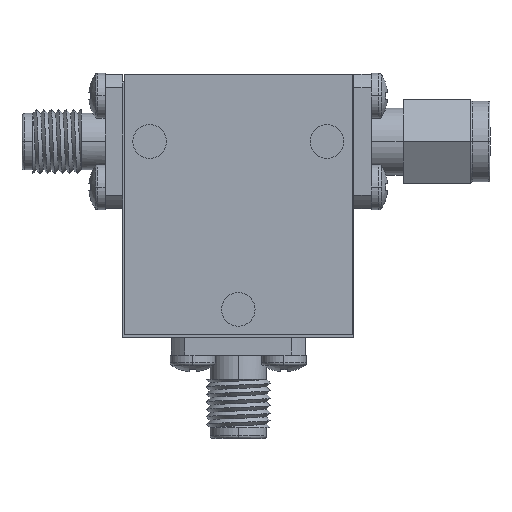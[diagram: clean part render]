
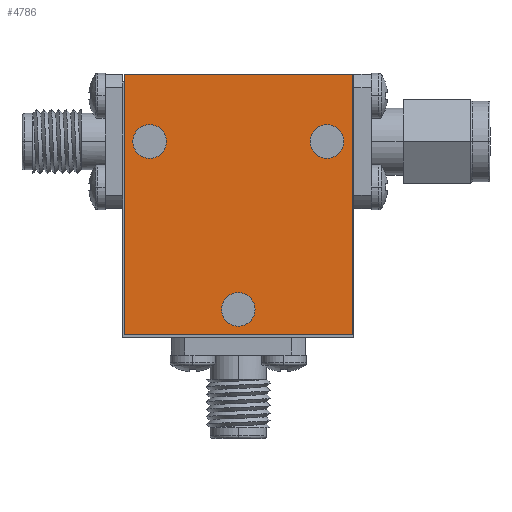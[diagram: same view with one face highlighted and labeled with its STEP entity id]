
A CAD part, top view. The second image highlights one B-rep face of the part: STEP entity #4786.
In plain terms, the highlighted planar face has unit normal (0, 0, 1).
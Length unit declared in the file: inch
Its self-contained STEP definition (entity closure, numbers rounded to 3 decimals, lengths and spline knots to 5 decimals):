
#86 = AXIS2_PLACEMENT_3D ( 'NONE', #2663, #194, #2822 ) ;
#126 = CIRCLE ( 'NONE', #86, 0.0625 ) ;
#194 = DIRECTION ( 'NONE',  ( 0., 0., 1. ) ) ;
#268 = ORIENTED_EDGE ( 'NONE', *, *, #1332, .T. ) ;
#324 = FACE_BOUND ( 'NONE', #4761, .T. ) ;
#326 = DIRECTION ( 'NONE',  ( 0., -1., 0. ) ) ;
#512 = CARTESIAN_POINT ( 'NONE',  ( 0.43325, 0.4975, 0.52168 ) ) ;
#781 = AXIS2_PLACEMENT_3D ( 'NONE', #1720, #5119, #326 ) ;
#788 = FACE_OUTER_BOUND ( 'NONE', #3611, .T. ) ;
#805 = DIRECTION ( 'NONE',  ( -1., 0., 0. ) ) ;
#825 = CARTESIAN_POINT ( 'NONE',  ( -0.32175, 0.185, 0.52168 ) ) ;
#847 = VERTEX_POINT ( 'NONE', #2517 ) ;
#881 = PLANE ( 'NONE',  #4744 ) ;
#896 = DIRECTION ( 'NONE',  ( 0., 0., -1. ) ) ;
#898 = EDGE_CURVE ( 'NONE', #5420, #4366, #126, .T. ) ;
#903 = CARTESIAN_POINT ( 'NONE',  ( -0.41675, 0.4975, 0.52168 ) ) ;
#942 = AXIS2_PLACEMENT_3D ( 'NONE', #4652, #2980, #2094 ) ;
#969 = EDGE_LOOP ( 'NONE', ( #5310, #5149 ) ) ;
#1059 = EDGE_CURVE ( 'NONE', #5533, #1228, #5305, .T. ) ;
#1196 = VERTEX_POINT ( 'NONE', #825 ) ;
#1202 = EDGE_CURVE ( 'NONE', #1196, #847, #1844, .T. ) ;
#1228 = VERTEX_POINT ( 'NONE', #1802 ) ;
#1234 = AXIS2_PLACEMENT_3D ( 'NONE', #1646, #2518, #2545 ) ;
#1276 = CARTESIAN_POINT ( 'NONE',  ( 0.43325, -0.4725, 0.52168 ) ) ;
#1326 = VERTEX_POINT ( 'NONE', #903 ) ;
#1332 = EDGE_CURVE ( 'NONE', #1326, #1228, #3636, .T. ) ;
#1362 = DIRECTION ( 'NONE',  ( 0., -1., 0. ) ) ;
#1363 = CARTESIAN_POINT ( 'NONE',  ( 0.00825, -0.44, 0.52168 ) ) ;
#1450 = EDGE_CURVE ( 'NONE', #2340, #1326, #4313, .T. ) ;
#1646 = CARTESIAN_POINT ( 'NONE',  ( 0.00825, -0.3775, 0.52168 ) ) ;
#1720 = CARTESIAN_POINT ( 'NONE',  ( -0.32175, 0.2475, 0.52168 ) ) ;
#1722 = CARTESIAN_POINT ( 'NONE',  ( 0.33825, 0.185, 0.52168 ) ) ;
#1802 = CARTESIAN_POINT ( 'NONE',  ( -0.41675, -0.4725, 0.52168 ) ) ;
#1840 = CARTESIAN_POINT ( 'NONE',  ( 0.33825, 0.31, 0.52168 ) ) ;
#1844 = CIRCLE ( 'NONE', #781, 0.0625 ) ;
#2053 = VECTOR ( 'NONE', #2978, 39.37008 ) ;
#2094 = DIRECTION ( 'NONE',  ( 0., -1., 0. ) ) ;
#2117 = EDGE_CURVE ( 'NONE', #847, #1196, #2610, .T. ) ;
#2233 = CARTESIAN_POINT ( 'NONE',  ( -0.41675, 0.4975, 0.52168 ) ) ;
#2246 = EDGE_CURVE ( 'NONE', #4375, #3815, #2291, .T. ) ;
#2291 = CIRCLE ( 'NONE', #942, 0.0625 ) ;
#2340 = VERTEX_POINT ( 'NONE', #3809 ) ;
#2517 = CARTESIAN_POINT ( 'NONE',  ( -0.32175, 0.31, 0.52168 ) ) ;
#2518 = DIRECTION ( 'NONE',  ( 0., 0., 1. ) ) ;
#2545 = DIRECTION ( 'NONE',  ( 0., -1., 0. ) ) ;
#2588 = AXIS2_PLACEMENT_3D ( 'NONE', #2778, #5312, #2753 ) ;
#2607 = CARTESIAN_POINT ( 'NONE',  ( 0.43325, 0.4975, 0.52168 ) ) ;
#2610 = CIRCLE ( 'NONE', #2588, 0.0625 ) ;
#2614 = ORIENTED_EDGE ( 'NONE', *, *, #1202, .F. ) ;
#2663 = CARTESIAN_POINT ( 'NONE',  ( 0.33825, 0.2475, 0.52168 ) ) ;
#2728 = DIRECTION ( 'NONE',  ( -1., 0., 0. ) ) ;
#2748 = CIRCLE ( 'NONE', #1234, 0.0625 ) ;
#2753 = DIRECTION ( 'NONE',  ( 0., -1., 0. ) ) ;
#2757 = FACE_BOUND ( 'NONE', #3027, .T. ) ;
#2778 = CARTESIAN_POINT ( 'NONE',  ( -0.32175, 0.2475, 0.52168 ) ) ;
#2806 = ORIENTED_EDGE ( 'NONE', *, *, #2117, .F. ) ;
#2811 = DIRECTION ( 'NONE',  ( 0., -1., 0. ) ) ;
#2822 = DIRECTION ( 'NONE',  ( 0., -1., 0. ) ) ;
#2837 = CARTESIAN_POINT ( 'NONE',  ( 0.33825, 0.2475, 0.52168 ) ) ;
#2870 = ORIENTED_EDGE ( 'NONE', *, *, #4608, .F. ) ;
#2978 = DIRECTION ( 'NONE',  ( 0., -1., 0. ) ) ;
#2980 = DIRECTION ( 'NONE',  ( 0., 0., 1. ) ) ;
#3027 = EDGE_LOOP ( 'NONE', ( #2614, #2806 ) ) ;
#3100 = EDGE_CURVE ( 'NONE', #4366, #5420, #4158, .T. ) ;
#3146 = ORIENTED_EDGE ( 'NONE', *, *, #2246, .F. ) ;
#3166 = ORIENTED_EDGE ( 'NONE', *, *, #1450, .T. ) ;
#3416 = FACE_BOUND ( 'NONE', #969, .T. ) ;
#3448 = CARTESIAN_POINT ( 'NONE',  ( 0.00825, -0.315, 0.52168 ) ) ;
#3573 = LINE ( 'NONE', #4270, #2053 ) ;
#3593 = EDGE_CURVE ( 'NONE', #2340, #5533, #3573, .T. ) ;
#3611 = EDGE_LOOP ( 'NONE', ( #268, #5013, #5148, #3166 ) ) ;
#3636 = LINE ( 'NONE', #2233, #5558 ) ;
#3809 = CARTESIAN_POINT ( 'NONE',  ( 0.43325, 0.4975, 0.52168 ) ) ;
#3815 = VERTEX_POINT ( 'NONE', #3448 ) ;
#4158 = CIRCLE ( 'NONE', #4925, 0.0625 ) ;
#4242 = CARTESIAN_POINT ( 'NONE',  ( 0.43325, -0.4725, 0.52168 ) ) ;
#4270 = CARTESIAN_POINT ( 'NONE',  ( 0.43325, 0.4975, 0.52168 ) ) ;
#4313 = LINE ( 'NONE', #512, #4968 ) ;
#4366 = VERTEX_POINT ( 'NONE', #1722 ) ;
#4375 = VERTEX_POINT ( 'NONE', #1363 ) ;
#4608 = EDGE_CURVE ( 'NONE', #3815, #4375, #2748, .T. ) ;
#4652 = CARTESIAN_POINT ( 'NONE',  ( 0.00825, -0.3775, 0.52168 ) ) ;
#4744 = AXIS2_PLACEMENT_3D ( 'NONE', #2607, #896, #5178 ) ;
#4761 = EDGE_LOOP ( 'NONE', ( #3146, #2870 ) ) ;
#4786 = ADVANCED_FACE ( 'NONE', ( #3416, #324, #2757, #788 ), #881, .F. ) ;
#4925 = AXIS2_PLACEMENT_3D ( 'NONE', #2837, #4944, #2811 ) ;
#4944 = DIRECTION ( 'NONE',  ( 0., 0., 1. ) ) ;
#4968 = VECTOR ( 'NONE', #2728, 39.37008 ) ;
#5013 = ORIENTED_EDGE ( 'NONE', *, *, #1059, .F. ) ;
#5119 = DIRECTION ( 'NONE',  ( 0., 0., 1. ) ) ;
#5148 = ORIENTED_EDGE ( 'NONE', *, *, #3593, .F. ) ;
#5149 = ORIENTED_EDGE ( 'NONE', *, *, #898, .F. ) ;
#5178 = DIRECTION ( 'NONE',  ( 0., 1., 0. ) ) ;
#5232 = VECTOR ( 'NONE', #805, 39.37008 ) ;
#5305 = LINE ( 'NONE', #4242, #5232 ) ;
#5310 = ORIENTED_EDGE ( 'NONE', *, *, #3100, .F. ) ;
#5312 = DIRECTION ( 'NONE',  ( 0., 0., 1. ) ) ;
#5420 = VERTEX_POINT ( 'NONE', #1840 ) ;
#5533 = VERTEX_POINT ( 'NONE', #1276 ) ;
#5558 = VECTOR ( 'NONE', #1362, 39.37008 ) ;
